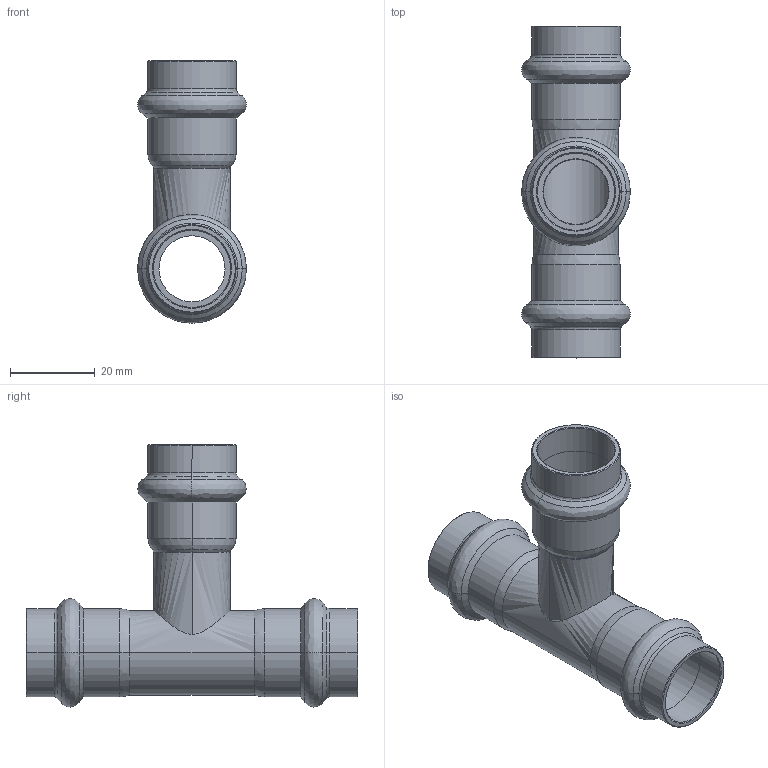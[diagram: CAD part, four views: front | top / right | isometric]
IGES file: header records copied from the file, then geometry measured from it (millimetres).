
Start section: Elysium IGES Interface
Global section: file name: C:\3d modellen sudo\C-Pr VP\SP8130V\8130VW18.igs; native system: CoCreate Modeling 17.00A  17-Jun-2010; preprocessor: CoCreate IGES_3D V2.2; author: Unknown; organization: Unknown; date: 20130129.161459; units: millimetre
Bounding box: 25.7 x 78.51 x 62.03 mm (x, y, z)
Volume: 11285.7 mm3; surface area: 15069.5 mm2
Topology: 1 solids, 1 shells, 124 faces, 253 edges, 139 vertices
Faces by surface type: bspline 124
